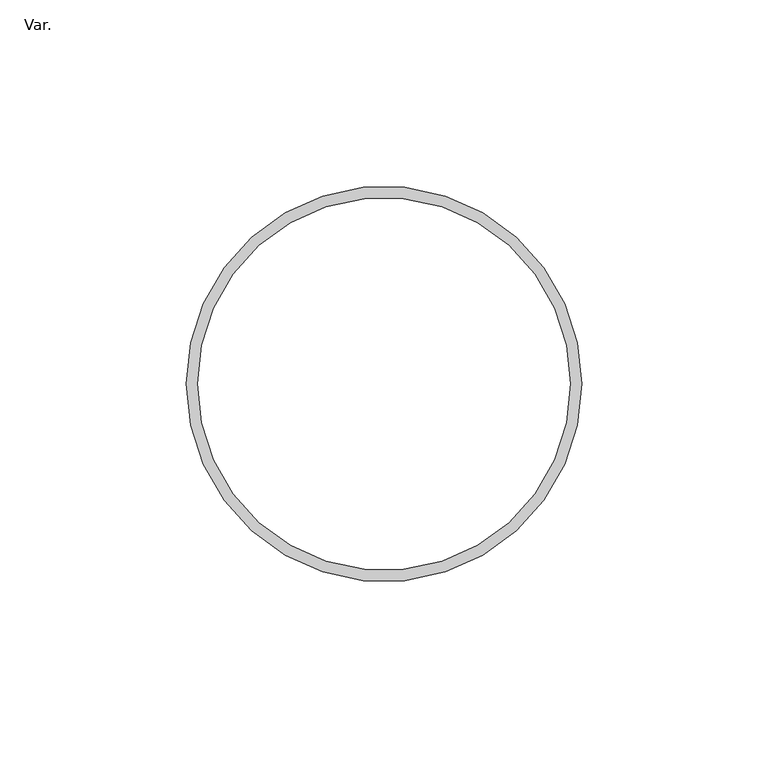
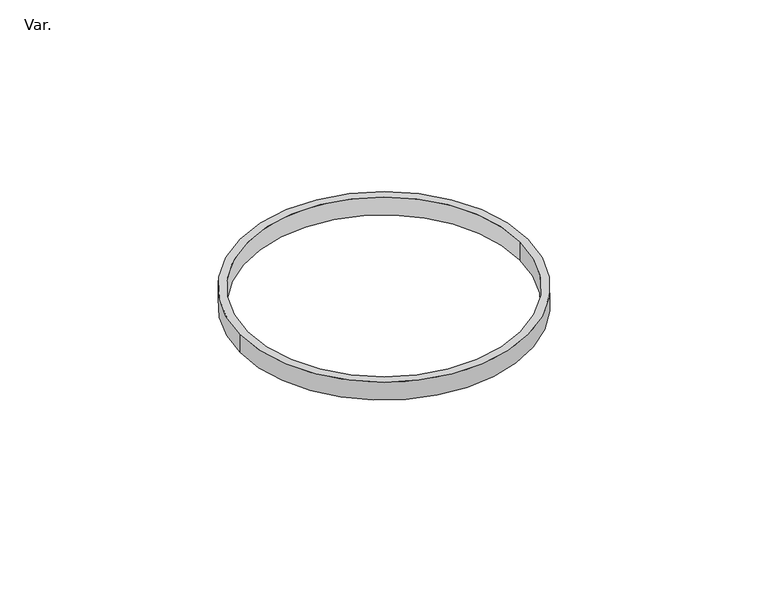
"""IFC4 building model written with IfcOpenShell, lengths in millimetres: pipe fitting geometry, Z_Amanco Esgoto Caixa Sif DN 100 Porta Grelha Redondo (Nested) : Var.."""

from ifc_helpers import new_model, si_unit, point, frame, origin, origin_2d, place, context, project, spatial, circle_curve, trimmed, segment, composite_curve, outline, extrude, source, transform, mapped, element, save


def var_a9bd8114(model_context):
    return source(origin(), model_context, "Body", "SweptSolid", [
        extrude(outline(composite_curve([segment(trimmed(circle_curve(origin_2d(), 53.0), [point((-53.0, 0.0))], [point((53.0, 0.0))], False, "CARTESIAN"), True, "CONTINUOUS"), segment(trimmed(circle_curve(origin_2d(), 53.0), [point((53.0, 0.0))], [point((-53.0, 0.0))], False, "CARTESIAN"), True, "CONTINUOUS")], self_intersect=False), holes=[composite_curve([segment(trimmed(circle_curve(origin_2d(), 50.0), [point((-50.0, 0.0))], [point((50.0, 0.0))], True, "CARTESIAN"), True, "CONTINUOUS"), segment(trimmed(circle_curve(origin_2d(), 50.0), [point((50.0, 0.0))], [point((-50.0, 0.0))], True, "CARTESIAN"), True, "CONTINUOUS")], self_intersect=False)]), frame((0.0, 0.0, -7.0), z_axis=(0.0, 0.0, 1.0), x_axis=(1.0, 0.0, 0.0)), (0.0, 0.0, 1.0), 7.0),
    ])


if __name__ == "__main__":
    model = new_model("IFC4")
    model_context = context("Model", 3, world=origin())
    ifc_project = project(units=[si_unit("LENGTHUNIT", "METRE", prefix="MILLI")], contexts=[model_context])
    site = spatial("IfcSite", under=ifc_project)
    building = spatial("IfcBuilding", under=site)
    placement = place(None, origin())
    var_shape = var_a9bd8114(model_context)
    element("IfcPipeFitting", 1, ObjectType="Z_Amanco Esgoto Caixa Sif DN 100 Porta Grelha Redondo (Nested) : Var.", at=placement, inside=building, context=model_context, shape_type="MappedRepresentation", body=[
        mapped(var_shape, transform((0.0, 0.0, 0.0), x_axis=(1.0, 0.0, 0.0), y_axis=(0.0, 1.0, 0.0), z_axis=(0.0, 0.0, 1.0))),
    ])
    save(model, "model.ifc")
